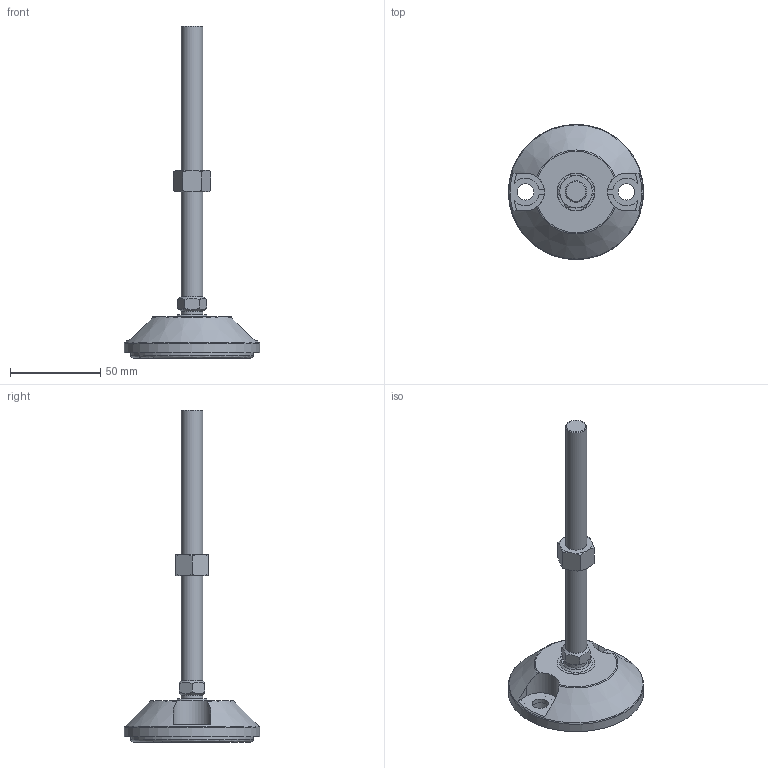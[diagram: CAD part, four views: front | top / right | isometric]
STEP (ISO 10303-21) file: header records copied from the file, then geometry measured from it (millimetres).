
FILE_DESCRIPTION(/* description */ (''),/* implementation_level */ '2;1');
FILE_NAME(/* name */ 'Articulating Anti-slip Levelling Foot - Metal 75mm - M12 - 150mm.step',/* time_stamp */ '2025-10-14T14:24:20+03:00',/* author */ (''),/* organization */ (''),/* preprocessor_version */ 'ST-DEVELOPER v20.1',/* originating_system */ 'Autodesk Translation Framework v14.17.0.0',/* authorisation */ '');
FILE_SCHEMA (('AUTOMOTIVE_DESIGN { 1 0 10303 214 3 1 1 }'));
Length unit declared in the file: millimetre
Products named in the file (8): Articulating Anti-slip Levelling Foot - Metal 75mm - M12 - 150mm; Articulating Levelling Foot Stud - M12 - 150mm; hex nut style 2_am_B18.2.4.2M - Hex nut, Style 2,  M12 x 1.75 --D-N; Articulating Levelling Foot Stud - M12 - 150mm_1; 340-1000A-01_ASM; 340-1001B-01; 340-1003B-01; 340-1002B-01
Assembly tree (7 placements, depth 3):
  Articulating Anti-slip Levelling Foot - Metal 75mm - M12 - 150mm
    Articulating Levelling Foot Stud - M12 - 150mm
      hex nut style 2_am_B18.2.4.2M - Hex nut, Style 2,  M12 x 1.75 --D-N
      Articulating Levelling Foot Stud - M12 - 150mm_1
    340-1000A-01_ASM
      340-1001B-01
      340-1003B-01
      340-1002B-01
Bounding box: 75 x 75 x 184.01 mm (x, y, z)
Volume: 78238.5 mm3; surface area: 36101.7 mm2
Topology: 5 solids, 5 shells, 184 faces, 462 edges, 303 vertices
Faces by surface type: plane 93, cylinder 46, cone 37, torus 4, bspline 3, sphere 1
Full cylindrical faces by diameter (mm): 3.7 x2, 3.996 x1, 7 x2, 9 x2, 10.274 x1, 11 x2, 11.834 x1, 12 x1, 12.166 x1, 15 x2, 15.052 x1, 16 x1, 20 x1, 20.8 x1, 21 x1, 40 x1, 68 x1, 69 x1, 75 x1
Entity records: 6275 total; most frequent: CARTESIAN_POINT 1659, DIRECTION 953, ORIENTED_EDGE 922, EDGE_CURVE 461, AXIS2_PLACEMENT_3D 386, VERTEX_POINT 303, EDGE_LOOP 214, CIRCLE 190
